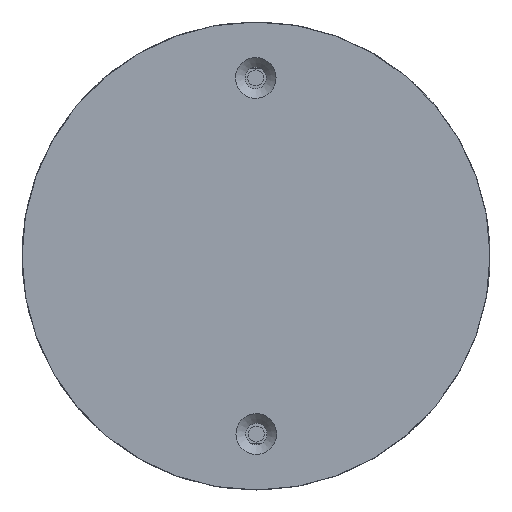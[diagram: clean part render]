
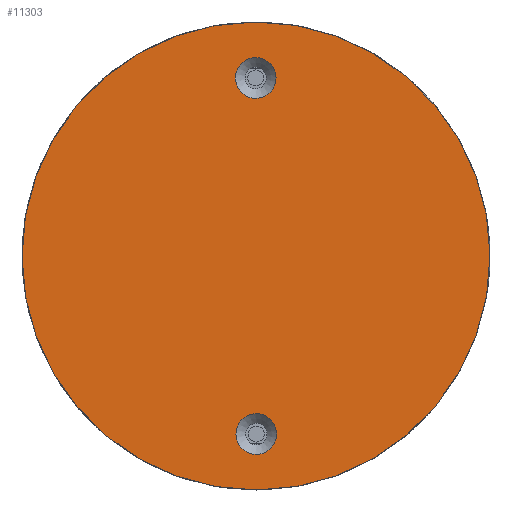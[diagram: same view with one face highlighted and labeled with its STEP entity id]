
A CAD part, left-side view. The second image highlights one B-rep face of the part: STEP entity #11303.
In plain terms, the highlighted planar face has unit normal (-1, 0, 0).
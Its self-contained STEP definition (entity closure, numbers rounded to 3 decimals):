
#2121=FACE_BOUND('',#4264,.T.);
#2122=FACE_BOUND('',#4265,.T.);
#2706=CIRCLE('',#12559,23.);
#2709=CIRCLE('',#12566,2.);
#2713=CIRCLE('',#12573,2.);
#2957=PLANE('',#12606);
#3570=FACE_OUTER_BOUND('',#4263,.T.);
#4263=EDGE_LOOP('',(#10542));
#4264=EDGE_LOOP('',(#10543));
#4265=EDGE_LOOP('',(#10544));
#5622=VERTEX_POINT('',#22347);
#5627=VERTEX_POINT('',#22366);
#5631=VERTEX_POINT('',#22380);
#7234=EDGE_CURVE('',#5622,#5622,#2706,.T.);
#7243=EDGE_CURVE('',#5627,#5627,#2709,.T.);
#7250=EDGE_CURVE('',#5631,#5631,#2713,.T.);
#10542=ORIENTED_EDGE('',*,*,#7234,.F.);
#10543=ORIENTED_EDGE('',*,*,#7243,.T.);
#10544=ORIENTED_EDGE('',*,*,#7250,.T.);
#11303=ADVANCED_FACE('',(#3570,#2121,#2122),#2957,.T.);
#12559=AXIS2_PLACEMENT_3D('',#22349,#15389,#15390);
#12566=AXIS2_PLACEMENT_3D('',#22367,#15409,#15410);
#12573=AXIS2_PLACEMENT_3D('',#22381,#15426,#15427);
#12606=AXIS2_PLACEMENT_3D('',#22446,#15504,#15505);
#15389=DIRECTION('center_axis',(1.,0.,0.));
#15390=DIRECTION('ref_axis',(0.,0.,-1.));
#15409=DIRECTION('center_axis',(1.,0.,0.));
#15410=DIRECTION('ref_axis',(0.,0.,1.));
#15426=DIRECTION('center_axis',(1.,0.,0.));
#15427=DIRECTION('ref_axis',(0.,0.,1.));
#15504=DIRECTION('center_axis',(-1.,0.,0.));
#15505=DIRECTION('ref_axis',(0.,0.,1.));
#22347=CARTESIAN_POINT('',(5.245,-23.,0.));
#22349=CARTESIAN_POINT('Origin',(5.245,0.,
0.));
#22366=CARTESIAN_POINT('',(5.245,0.,15.5));
#22367=CARTESIAN_POINT('Origin',(5.245,0.,17.5));
#22380=CARTESIAN_POINT('',(5.245,0.,-19.5));
#22381=CARTESIAN_POINT('Origin',(5.245,0.,-17.5));
#22446=CARTESIAN_POINT('Origin',(5.245,23.,0.));
